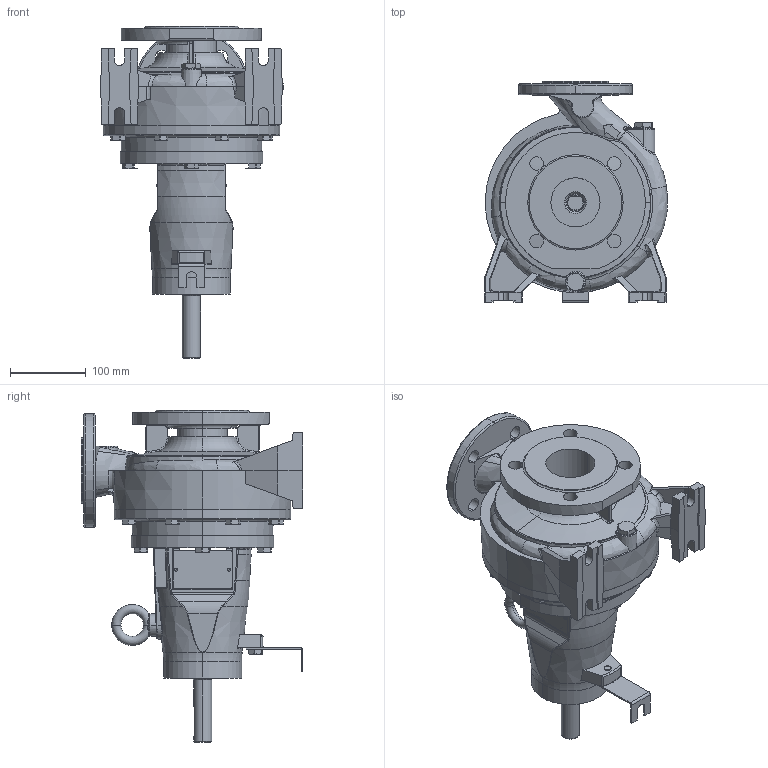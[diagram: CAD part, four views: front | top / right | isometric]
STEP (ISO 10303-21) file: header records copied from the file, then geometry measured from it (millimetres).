
FILE_DESCRIPTION (( 'STEP AP203' ), '1' );
FILE_NAME ('BSN 40 160.STEP', '2020-03-05T13:34:54', ( '' ), ( '' ), 'SwSTEP 2.0', 'SolidWorks 2019', '' );
FILE_SCHEMA (( 'CONFIG_CONTROL_DESIGN' ));
Products named in the file (2): BSN 40 160
Bounding box: 241.46 x 292 x 438.5 mm (x, y, z)
Surface area: 477400.4 mm2 (no closed solid volume)
Topology: 0 solids, 33 shells, 751 faces, 2391 edges, 1649 vertices
Faces by surface type: plane 270, cylinder 189, bspline 151, cone 74, torus 50, sphere 17
Entity records: 40823 total; most frequent: CARTESIAN_POINT 21386, ORIENTED_EDGE 4044, DIRECTION 3530, EDGE_CURVE 2385, VERTEX_POINT 1649, AXIS2_PLACEMENT_3D 1319, LINE 892, VECTOR 892
